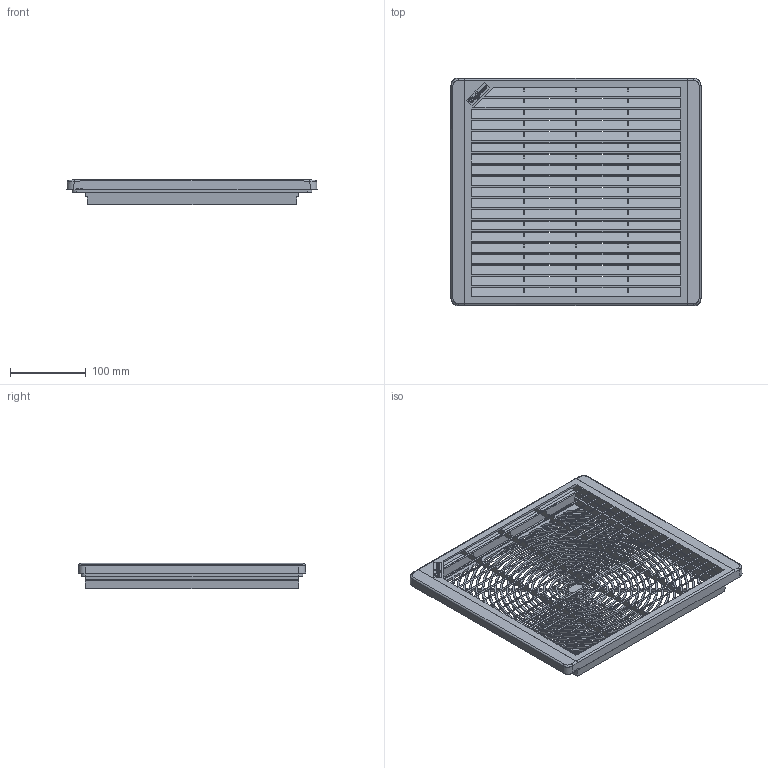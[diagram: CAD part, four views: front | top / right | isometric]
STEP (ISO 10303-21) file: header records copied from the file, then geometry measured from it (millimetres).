
FILE_DESCRIPTION(( 'STEP AP214 file generated by I-DEAS Master Series'),'2;1');
FILE_NAME('D:\a00150\t-ep10ul12.stp','2002-06-05T11:07:45',('A00150'),( 'unspecified'),'I-DEAS Master Series 7m2 : Design', 'I-DEAS Master Series 7m2 : Design','unspecified');
FILE_SCHEMA(('AUTOMOTIVE_DESIGN_CC2 { 1 2 10303 214 -1 1 5 3 }'));
Length unit declared in the file: inch
Products named in the file (4): 10_inch_pkg_bbs; 87555494; 87559981; gskt_type_12_10in_fan
Assembly tree (3 placements, depth 2):
  10_inch_pkg_bbs
    87555494
    87559981
    gskt_type_12_10in_fan
Bounding box: 329.82 x 299.97 x 33.55 mm (x, y, z)
Volume: 453438 mm3; surface area: 512773.3 mm2
Topology: 3 solids, 3 shells, 2203 faces, 6516 edges, 4291 vertices
Faces by surface type: bspline 2203
Entity records: 78485 total; most frequent: CARTESIAN_POINT 41544, ORIENTED_EDGE 13024, EDGE_CURVE 6512, VERTEX_POINT 4291, EDGE_LOOP 2681, B_SPLINE_CURVE_WITH_KNOTS 2222, FACE_OUTER_BOUND 2203, ADVANCED_FACE 2203
